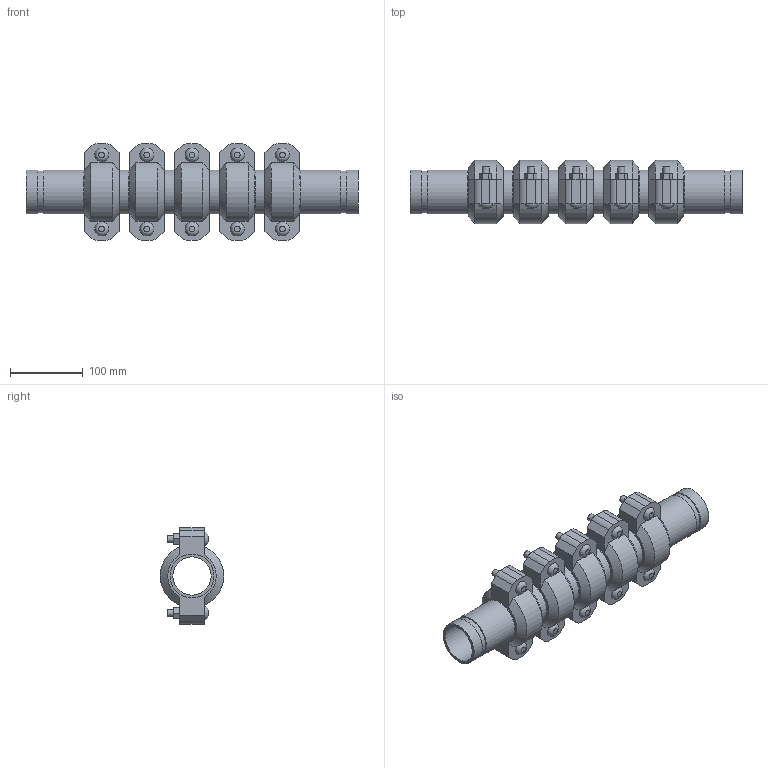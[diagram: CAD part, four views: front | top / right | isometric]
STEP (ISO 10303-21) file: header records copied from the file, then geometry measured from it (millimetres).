
FILE_DESCRIPTION(/* description */ ('VIC SS EXPANSION JOINT 5 COUPLINGS EXPANDED STYLE 155P (OGS) (POTABLE WATER) ','CAx-IF Rec.Pracs.---Representation and Presentation of Product Manufacturing Information (PMI)---4.0---2014-10-13'),/* implementation_level */ '2;1');
FILE_NAME(/* name */ 'C:\Users\kkamble\AppData\Roaming\Autodesk\ApplicationPlugins\Victaulic.Temp\A411\Victaulic_SS_Expansion Joint_Expanded_5 Couplings_Style 155P (OGS)-Potable Water_5 Coup_Expd_2 (50).stp',/* time_stamp */ '2021-07-16T16:52:32+05:00',/* author */ ('kkamble'),/* organization */ ('Victaulic'),/* preprocessor_version */ 'ST-DEVELOPER v17.2',/* originating_system */ 'Autodesk Inventor 2019',/* authorisation */ '');
FILE_SCHEMA (('AP242_MANAGED_MODEL_BASED_3D_ENGINEERING_MIM_LF { 1 0 10303 442 1 1 4 }'));
Length unit declared in the file: inch
Products named in the file (4): 155P-02.0; Nipple-02.0; Nipple-02.0_1; 075-02.0
Assembly tree (11 placements, depth 2):
  155P-02.0
    Nipple-02.0  x2
    Nipple-02.0_1  x4
    075-02.0  x5
Bounding box: 455.42 x 87.12 x 132.59 mm (x, y, z)
Volume: 1286774.1 mm3; surface area: 372289.2 mm2
Topology: 11 solids, 21 shells, 357 faces, 845 edges, 594 vertices
Faces by surface type: plane 216, cylinder 111, cone 20, bspline 10
Full cylindrical faces by diameter (mm): 9.525 x20, 11.43 x10, 52.502 x6, 53.975 x5, 57.15 x12, 60.325 x28
Entity records: 2792 total; most frequent: CARTESIAN_POINT 495, DIRECTION 465, ORIENTED_EDGE 386, EDGE_CURVE 193, AXIS2_PLACEMENT_3D 186, VERTEX_POINT 138, EDGE_LOOP 107, LINE 93
